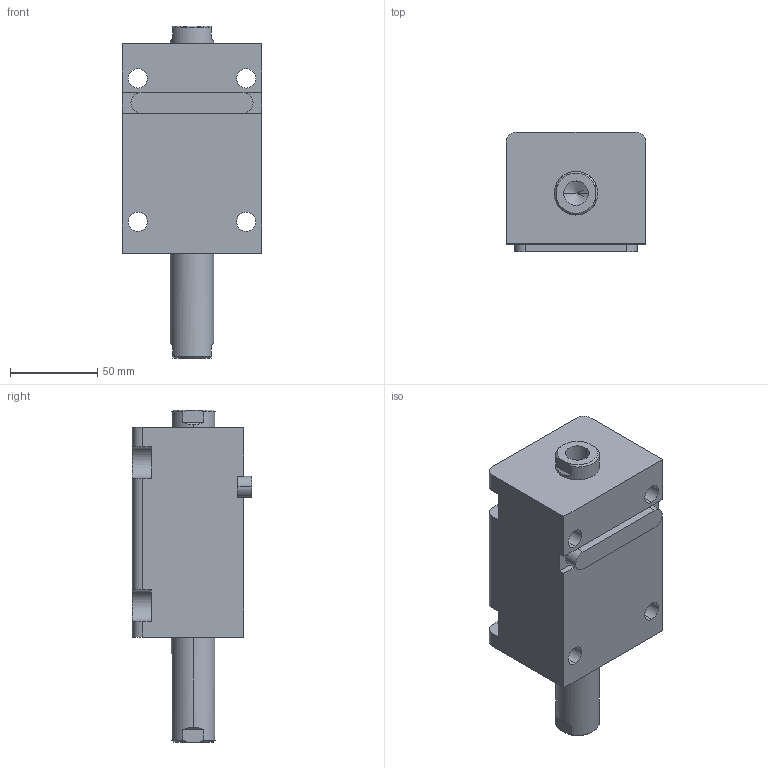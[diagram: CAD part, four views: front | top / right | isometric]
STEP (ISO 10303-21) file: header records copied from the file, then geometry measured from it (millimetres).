
FILE_DESCRIPTION (( 'STEP AP203' ), '1' );
FILE_NAME ('HTB-LW40-50N.STEP', '2019-10-09T07:56:02', ( '微软用户' ), ( '微软中国' ), 'SwSTEP 2.0', 'SolidWorks 2012', '' );
FILE_SCHEMA (( 'CONFIG_CONTROL_DESIGN' ));
Length unit declared in the file: millimetre
Products named in the file (4): HTB-LW40-50掛极; HTB-LW40-50N活塞杆; HTB-LA40-瑩; HTB-LW40-50N
Assembly tree (3 placements, depth 2):
  HTB-LW40-50N
    HTB-LW40-50掛极
    HTB-LW40-50N活塞杆
    HTB-LA40-瑩
Bounding box: 80 x 68.5 x 190 mm (x, y, z)
Volume: 569587.3 mm3; surface area: 89277.7 mm2
Topology: 3 solids, 3 shells, 105 faces, 261 edges, 168 vertices
Faces by surface type: plane 44, cylinder 41, cone 12, torus 8
Entity records: 3567 total; most frequent: CARTESIAN_POINT 588, DIRECTION 573, ORIENTED_EDGE 514, EDGE_CURVE 257, AXIS2_PLACEMENT_3D 221, VERTEX_POINT 168, VECTOR 131, LINE 131
